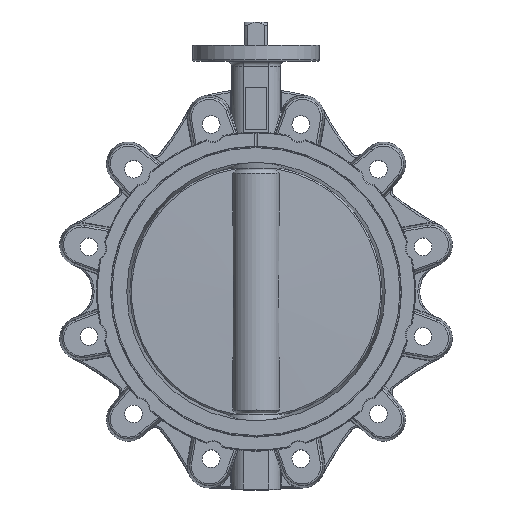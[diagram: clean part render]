
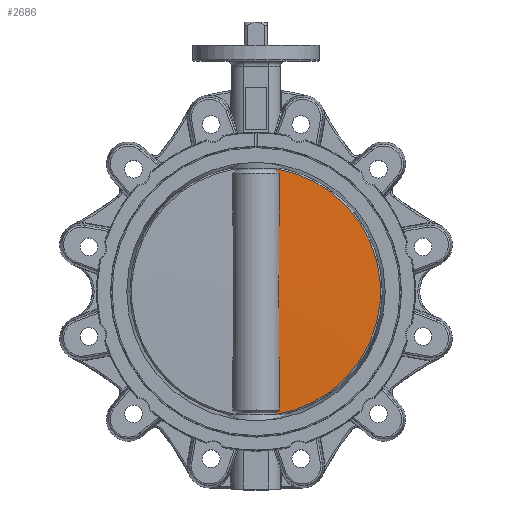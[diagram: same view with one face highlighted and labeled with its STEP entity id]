
A CAD part, top view. The second image highlights one B-rep face of the part: STEP entity #2686.
In plain terms, the highlighted conical face has half-angle 88.82 degrees and reference radius 147.561 mm.
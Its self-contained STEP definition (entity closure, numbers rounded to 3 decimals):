
#2638 = EDGE_CURVE ( 'NONE', #2779, #2691, #9467, .T. ) ;
#2675 = EDGE_LOOP ( 'NONE', ( #2676, #2683, #2688, #2716 ) ) ;
#2676 = ORIENTED_EDGE ( 'NONE', *, *, #2638, .T. ) ;
#2678 = EDGE_CURVE ( 'NONE', #2696, #2825, #9493, .T. ) ;
#2683 = ORIENTED_EDGE ( 'NONE', *, *, #2704, .T. ) ;
#2686 = ADVANCED_FACE ( 'NONE', ( #9412 ), #9398, .T. ) ;
#2688 = ORIENTED_EDGE ( 'NONE', *, *, #2678, .T. ) ;
#2691 = VERTEX_POINT ( 'NONE', #9400 ) ;
#2696 = VERTEX_POINT ( 'NONE', #9393 ) ;
#2704 = EDGE_CURVE ( 'NONE', #2691, #2696, #9429, .T. ) ;
#2716 = ORIENTED_EDGE ( 'NONE', *, *, #2837, .T. ) ;
#2779 = VERTEX_POINT ( 'NONE', #9888 ) ;
#2825 = VERTEX_POINT ( 'NONE', #10390 ) ;
#2837 = EDGE_CURVE ( 'NONE', #2825, #2779, #10315, .T. ) ;
#9393 = CARTESIAN_POINT ( 'NONE',  ( 21.753, -145.948, 7. ) ) ;
#9398 = CONICAL_SURFACE ( 'NONE', #9410, 147.561, 1.55 ) ;
#9400 = CARTESIAN_POINT ( 'NONE',  ( 27.603, -140.3, 7.094 ) ) ;
#9410 = AXIS2_PLACEMENT_3D ( 'NONE', #9506, #9504, #9498 ) ;
#9412 = FACE_OUTER_BOUND ( 'NONE', #2675, .T. ) ;
#9423 = CARTESIAN_POINT ( 'NONE',  ( 21.753, -145.948, 7. ) ) ;
#9424 = CARTESIAN_POINT ( 'NONE',  ( 23.711, -144.074, 7.032 ) ) ;
#9425 = CARTESIAN_POINT ( 'NONE',  ( 25.66, -142.19, 7.064 ) ) ;
#9426 = CARTESIAN_POINT ( 'NONE',  ( 27.603, -140.3, 7.094 ) ) ;
#9429 = B_SPLINE_CURVE_WITH_KNOTS ( 'NONE', 3,
 ( #9426, #9425, #9424, #9423 ),
 .UNSPECIFIED., .F., .F.,
 ( 4, 4 ),
 ( 0., 0.008 ),
 .UNSPECIFIED. ) ;
#9434 = CARTESIAN_POINT ( 'NONE',  ( 27.603, -140.3, 7.094 ) ) ;
#9435 = CARTESIAN_POINT ( 'NONE',  ( 27.481, -116.918, 7.567 ) ) ;
#9436 = CARTESIAN_POINT ( 'NONE',  ( 27.347, -93.537, 8.039 ) ) ;
#9437 = CARTESIAN_POINT ( 'NONE',  ( 27.136, -58.463, 8.715 ) ) ;
#9438 = CARTESIAN_POINT ( 'NONE',  ( 27.064, -46.772, 8.936 ) ) ;
#9439 = CARTESIAN_POINT ( 'NONE',  ( 26.966, -29.235, 9.223 ) ) ;
#9440 = CARTESIAN_POINT ( 'NONE',  ( 26.936, -23.389, 9.312 ) ) ;
#9441 = CARTESIAN_POINT ( 'NONE',  ( 26.89, -11.696, 9.444 ) ) ;
#9442 = CARTESIAN_POINT ( 'NONE',  ( 26.875, -5.849, 9.486 ) ) ;
#9443 = CARTESIAN_POINT ( 'NONE',  ( 26.875, 5.846, 9.486 ) ) ;
#9444 = CARTESIAN_POINT ( 'NONE',  ( 26.89, 11.693, 9.444 ) ) ;
#9445 = CARTESIAN_POINT ( 'NONE',  ( 26.936, 23.386, 9.312 ) ) ;
#9446 = CARTESIAN_POINT ( 'NONE',  ( 26.966, 29.232, 9.223 ) ) ;
#9447 = CARTESIAN_POINT ( 'NONE',  ( 27.064, 46.77, 8.936 ) ) ;
#9448 = CARTESIAN_POINT ( 'NONE',  ( 27.136, 58.461, 8.715 ) ) ;
#9449 = CARTESIAN_POINT ( 'NONE',  ( 27.347, 93.535, 8.039 ) ) ;
#9450 = CARTESIAN_POINT ( 'NONE',  ( 27.481, 116.918, 7.567 ) ) ;
#9451 = CARTESIAN_POINT ( 'NONE',  ( 27.603, 140.3, 7.094 ) ) ;
#9467 = B_SPLINE_CURVE_WITH_KNOTS ( 'NONE', 3,
 ( #9451, #9450, #9449, #9448, #9447, #9446, #9445, #9444, #9443, #9442, #9441, #9440, #9439, #9438, #9437, #9436, #9435, #9434 ),
 .UNSPECIFIED., .F., .F.,
 ( 4, 2, 2, 2, 2, 2, 2, 2, 4 ),
 ( 0.02, 0.09, 0.125, 0.142, 0.16, 0.178, 0.195, 0.23, 0.3 ),
 .UNSPECIFIED. ) ;
#9489 = DIRECTION ( 'NONE',  ( 1., 0., 0. ) ) ;
#9490 = DIRECTION ( 'NONE',  ( 0., 0., 1. ) ) ;
#9491 = CARTESIAN_POINT ( 'NONE',  ( 0., 0., 7. ) ) ;
#9493 = CIRCLE ( 'NONE', #9503, 147.561 ) ;
#9498 = DIRECTION ( 'NONE',  ( -1., 0., 0. ) ) ;
#9503 = AXIS2_PLACEMENT_3D ( 'NONE', #9491, #9490, #9489 ) ;
#9504 = DIRECTION ( 'NONE',  ( 0., 0., -1. ) ) ;
#9506 = CARTESIAN_POINT ( 'NONE',  ( 0., 0., 7. ) ) ;
#9888 = CARTESIAN_POINT ( 'NONE',  ( 27.603, 140.3, 7.094 ) ) ;
#10290 = CARTESIAN_POINT ( 'NONE',  ( 27.603, 140.3, 7.094 ) ) ;
#10291 = CARTESIAN_POINT ( 'NONE',  ( 25.66, 142.19, 7.064 ) ) ;
#10292 = CARTESIAN_POINT ( 'NONE',  ( 23.711, 144.074, 7.032 ) ) ;
#10293 = CARTESIAN_POINT ( 'NONE',  ( 21.753, 145.948, 7. ) ) ;
#10315 = B_SPLINE_CURVE_WITH_KNOTS ( 'NONE', 3,
 ( #10293, #10292, #10291, #10290 ),
 .UNSPECIFIED., .F., .F.,
 ( 4, 4 ),
 ( 0., 0.008 ),
 .UNSPECIFIED. ) ;
#10390 = CARTESIAN_POINT ( 'NONE',  ( 21.753, 145.948, 7. ) ) ;
